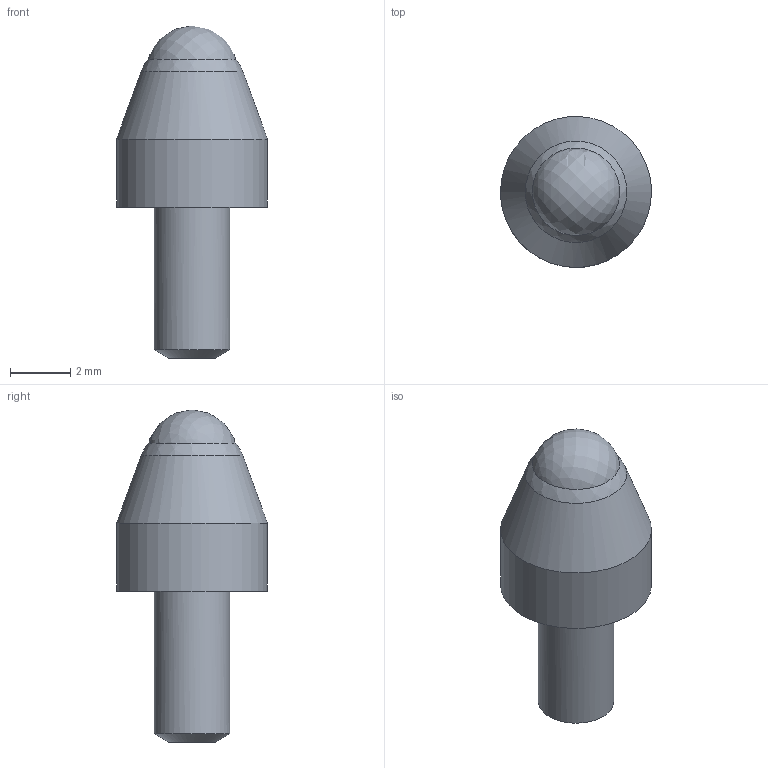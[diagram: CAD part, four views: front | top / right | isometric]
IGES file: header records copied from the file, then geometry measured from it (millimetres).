
Global section: file name: 440.20; native system: Autodesk Inventor 2021; preprocessor: unknown; author: AP; date: 20220111.120626; units: millimetre
Bounding box: 5 x 5 x 11 mm (x, y, z)
Volume: 102.9 mm3; surface area: 226.8 mm2
Topology: 3 solids, 3 shells, 27 faces, 65 edges, 40 vertices
Faces by surface type: bspline 27
